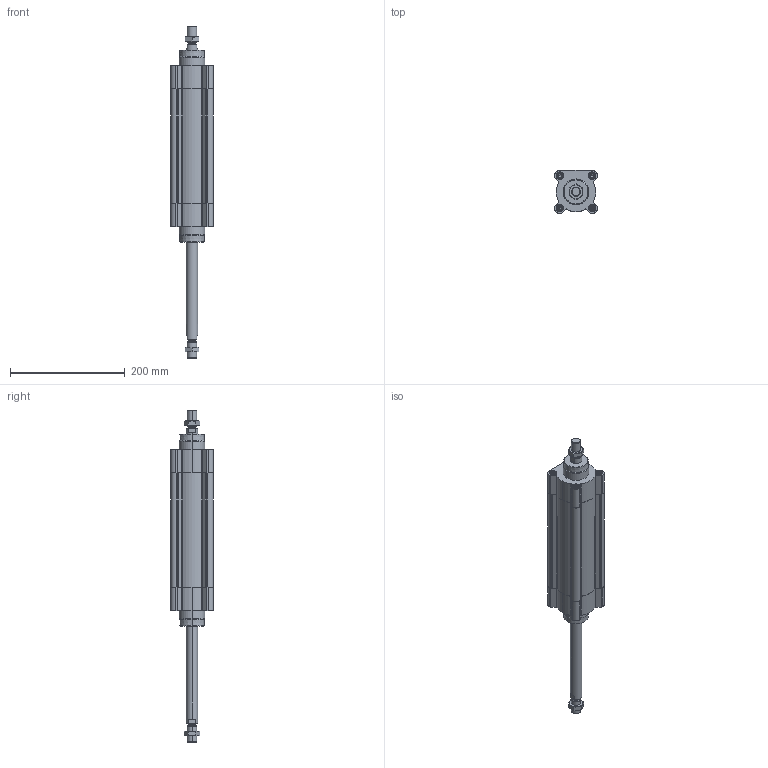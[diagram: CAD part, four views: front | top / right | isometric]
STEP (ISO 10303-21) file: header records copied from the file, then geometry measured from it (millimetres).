
FILE_DESCRIPTION (( 'STEP AP203' ), '1' );
FILE_NAME ('CPME63-160-P.STEP', '2023-06-15T13:22:25', ( '' ), ( '' ), 'SwSTEP 2.0', 'SolidWorks 2019', '' );
FILE_SCHEMA (( 'CONFIG_CONTROL_DESIGN' ));
Length unit declared in the file: millimetre
Products named in the file (1): CPME63-160-P
Bounding box: 75 x 75 x 579.4 mm (x, y, z)
Volume: 1017424.5 mm3; surface area: 229088.5 mm2
Topology: 4 solids, 4 shells, 686 faces, 1765 edges, 1116 vertices
Faces by surface type: plane 340, cylinder 210, cone 124, torus 12
Entity records: 21760 total; most frequent: CARTESIAN_POINT 5092, ORIENTED_EDGE 3498, DIRECTION 3421, EDGE_CURVE 1749, AXIS2_PLACEMENT_3D 1227, VERTEX_POINT 1116, LINE 967, VECTOR 967
